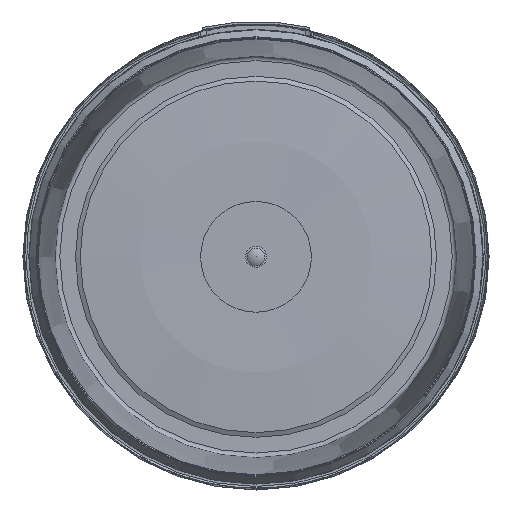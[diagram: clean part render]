
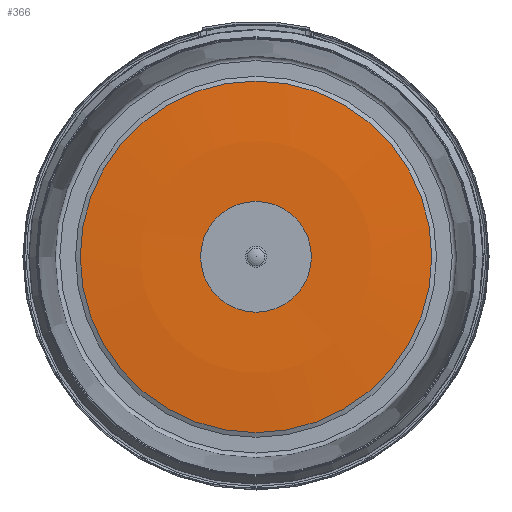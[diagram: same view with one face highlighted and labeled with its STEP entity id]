
A CAD part, left-side view. The second image highlights one B-rep face of the part: STEP entity #366.
In plain terms, the highlighted toroidal (fillet/blend) face has major radius 45.249 mm and minor radius 437.113 mm.
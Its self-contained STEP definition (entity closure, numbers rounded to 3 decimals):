
#366=ADVANCED_FACE('',(#3589,#3591),#3593,.T.);
#3589=FACE_OUTER_BOUND('',#3590,.T.);
#3590=EDGE_LOOP('',(#10844));
#3591=FACE_OUTER_BOUND('',#3592,.T.);
#3592=EDGE_LOOP('',(#10845));
#3593=DEGENERATE_TOROIDAL_SURFACE('',#3594,45.249,437.113,.T.);
#3594=AXIS2_PLACEMENT_3D('',#3595,#3596,#3597);
#3595=CARTESIAN_POINT('',(618.805,0.,0.));
#3596=DIRECTION('',(1.,0.,0.));
#3597=DIRECTION('',(0.,1.,0.));
#10844=ORIENTED_EDGE('',*,*,#16084,.F.);
#10845=ORIENTED_EDGE('',*,*,#16086,.T.);
#16084=EDGE_CURVE('',#19720,#19720,#19721,.T.);
#16086=EDGE_CURVE('',#19724,#19724,#19725,.T.);
#19720=VERTEX_POINT('',#30820);
#19721=CIRCLE('',#30821,85.499);
#19724=VERTEX_POINT('',#30830);
#19725=CIRCLE('',#30831,26.936);
#30820=CARTESIAN_POINT('',(183.549,85.499,0.));
#30821=AXIS2_PLACEMENT_3D('',#30822,#30823,#30824);
#30822=CARTESIAN_POINT('',(183.549,0.,0.));
#30823=DIRECTION('',(1.,0.,0.));
#30824=DIRECTION('',(0.,1.,0.));
#30830=CARTESIAN_POINT('',(182.076,26.936,0.));
#30831=AXIS2_PLACEMENT_3D('',#30832,#30833,#30834);
#30832=CARTESIAN_POINT('',(182.076,0.,0.));
#30833=DIRECTION('',(1.,0.,0.));
#30834=DIRECTION('',(0.,1.,0.));
